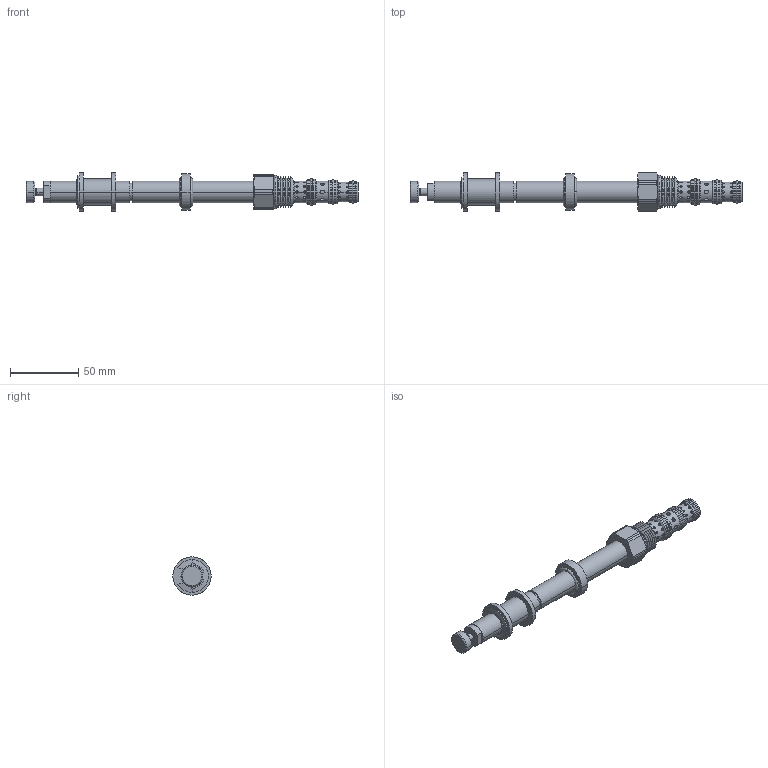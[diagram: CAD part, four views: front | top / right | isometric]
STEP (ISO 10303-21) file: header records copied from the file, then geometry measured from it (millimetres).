
FILE_DESCRIPTION((''),'2;1');
FILE_NAME('U:\Solid model CD\Solid model full\Solenoid\STEP\DGS4O0M-3D Full.stp','2008-06-23T08:37:50',('Dan'),(''),'Autodesk Inventor 9','Autodesk Inventor 9','');
FILE_SCHEMA(('AUTOMOTIVE_DESIGN { 1 0 10303 214 1 1 1 1 }'));
Length unit declared in the file: inch
Products named in the file (19): DGS4O0M-3D Full; DGS4O0M-3D Full1; DGS4O0M-3D Full2; DGS4O0M-3D Full3; DGS4O0M-3D Full4; DGS4O0M-3D Full5; DGS4O0M-3D Full6; DGS4O0M-3D Full7; DGS4O0M-3D Full8; DGS4O0M-3D Full9; DGS4O0M-3D Full10; DGS4O0M-3D Full11; DGS4O0M-3D Full12; DGS4O0M-3D Full13; DGS4O0M-3D Full14; DGS4O0M-3D Full15; DGS4O0M-3D Full16; DGS4O0M-3D Full17; DGS4O0M-3D Full18
Assembly tree (18 placements, depth 2):
  DGS4O0M-3D Full
    DGS4O0M-3D Full1
    DGS4O0M-3D Full2
    DGS4O0M-3D Full3
    DGS4O0M-3D Full4
    DGS4O0M-3D Full5
    DGS4O0M-3D Full6
    DGS4O0M-3D Full7
    DGS4O0M-3D Full8
    DGS4O0M-3D Full9
    DGS4O0M-3D Full10
    DGS4O0M-3D Full11
    DGS4O0M-3D Full12
    DGS4O0M-3D Full13
    DGS4O0M-3D Full14
    DGS4O0M-3D Full15
    DGS4O0M-3D Full16
    DGS4O0M-3D Full17
    DGS4O0M-3D Full18
Bounding box: 242.72 x 27.99 x 27.99 mm (x, y, z)
Volume: 58629.5 mm3; surface area: 27919.8 mm2
Topology: 18 solids, 18 shells, 447 faces, 1016 edges, 660 vertices
Faces by surface type: cylinder 232, plane 116, cone 62, torus 24, bspline 10, sphere 3
Entity records: 15374 total; most frequent: CARTESIAN_POINT 4555, DIRECTION 2290, ORIENTED_EDGE 2076, EDGE_CURVE 1038, AXIS2_PLACEMENT_3D 978, VERTEX_POINT 660, EDGE_LOOP 536, CIRCLE 504
